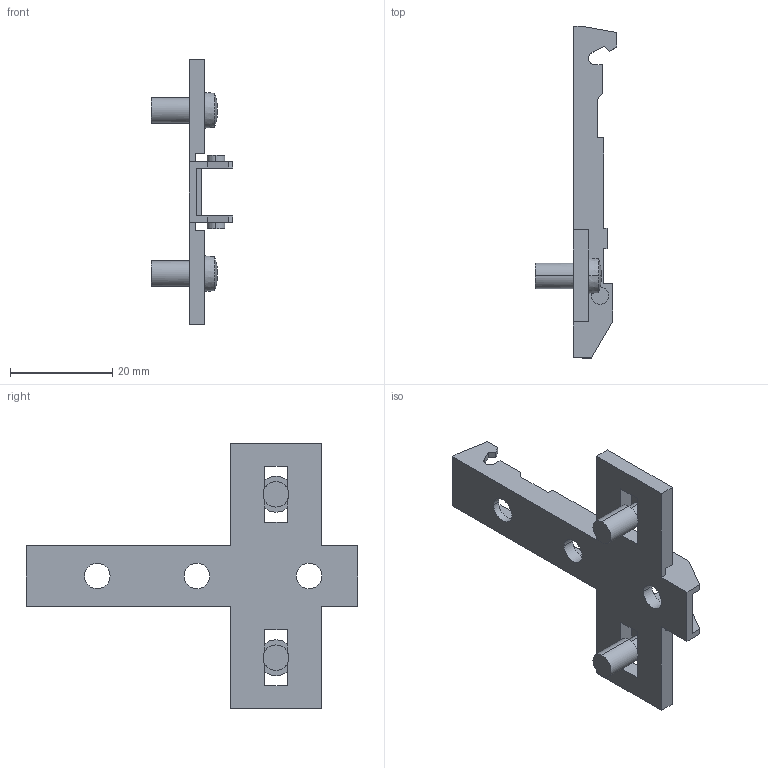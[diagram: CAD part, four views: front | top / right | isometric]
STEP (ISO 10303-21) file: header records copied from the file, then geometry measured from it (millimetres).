
FILE_DESCRIPTION (( 'STEP AP214' ), '1' );
FILE_NAME ('Eco Kreuzmontageplatte LR28_32_Dübel 5mm_kurz_H-02.step', '2010-11-18T10:07:10', ( 'grass' ), ( '' ), 'SwSTEP 2.0', 'SolidWorks 2010', '' );
FILE_SCHEMA (( 'AUTOMOTIVE_DESIGN' ));
Length unit declared in the file: millimetre
Products named in the file (1): Eco Kreuzmontageplatte LR28_32_Dübel 5mm_kurz_H-02
Bounding box: 16 x 65 x 52 mm (x, y, z)
Volume: 4262.8 mm3; surface area: 5266.9 mm2
Topology: 1 solids, 1 shells, 103 faces, 303 edges, 196 vertices
Faces by surface type: plane 75, cylinder 20, sphere 4, cone 4
Entity records: 3479 total; most frequent: ORIENTED_EDGE 606, CARTESIAN_POINT 603, DIRECTION 579, EDGE_CURVE 303, VECTOR 235, LINE 235, VERTEX_POINT 196, AXIS2_PLACEMENT_3D 172
